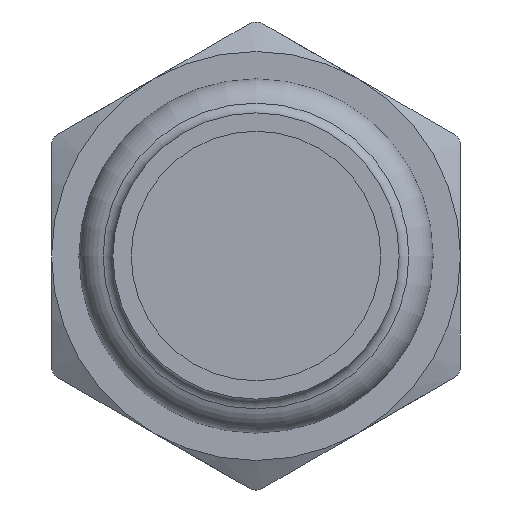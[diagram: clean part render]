
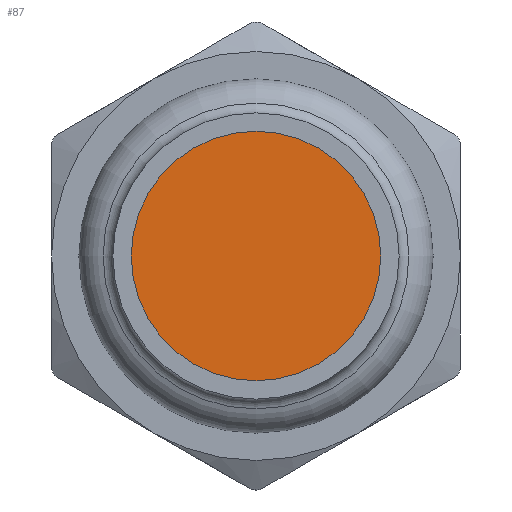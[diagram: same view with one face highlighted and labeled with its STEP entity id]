
A CAD part, front view. The second image highlights one B-rep face of the part: STEP entity #87.
In plain terms, the highlighted planar face has unit normal (0, -1, 0).
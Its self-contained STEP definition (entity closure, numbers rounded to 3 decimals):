
#87=ADVANCED_FACE('',(#356),#358,.T.);
#356=FACE_BOUND('',#357,.T.);
#357=EDGE_LOOP('',(#492));
#358=PLANE('',#359);
#359=AXIS2_PLACEMENT_3D('',#360,#361,#362);
#360=CARTESIAN_POINT('',(0.,7.146,0.));
#361=DIRECTION('',(0.,-1.,0.));
#362=DIRECTION('',(0.,0.,-1.));
#492=ORIENTED_EDGE('',*,*,#557,.T.);
#557=EDGE_CURVE('',#668,#668,#669,.F.);
#668=VERTEX_POINT('',#1824);
#669=CIRCLE('',#1825,9.15);
#1824=CARTESIAN_POINT('',(0.,7.146,9.15));
#1825=AXIS2_PLACEMENT_3D('',#1826,#1827,#1828);
#1826=CARTESIAN_POINT('',(0.,7.146,0.));
#1827=DIRECTION('',(0.,1.,0.));
#1828=DIRECTION('',(0.,0.,1.));
